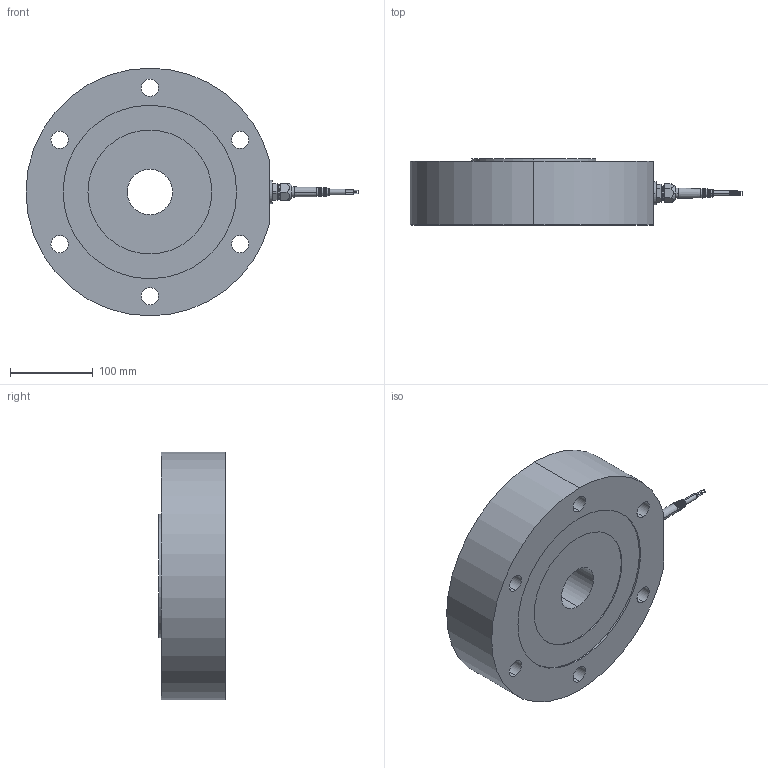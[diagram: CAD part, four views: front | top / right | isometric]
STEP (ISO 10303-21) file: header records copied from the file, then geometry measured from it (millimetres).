
FILE_DESCRIPTION (( 'STEP AP214' ), '1' );
FILE_NAME ('CLC-1 3 MN Load Cell.STEP', '2021-06-17T07:48:04', ( '' ), ( '' ), 'SwSTEP 2.0', 'SolidWorks 2021', '' );
FILE_SCHEMA (( 'AUTOMOTIVE_DESIGN' ));
Length unit declared in the file: millimetre
Products named in the file (6): PUR CLC-1 3 MN; Element CLC-1 3 MN; Standardkabel 4-Cond PVC; M26x1.5 - Pg9 - 6369829; CLC-1 3 MN Load Cell; pg 9 kabelförskruvning
Assembly tree (6 placements, depth 2):
  CLC-1 3 MN Load Cell
    Element CLC-1 3 MN
    PUR CLC-1 3 MN  x2
    M26x1.5 - Pg9 - 6369829
    pg 9 kabelförskruvning
    Standardkabel 4-Cond PVC
Bounding box: 402 x 80 x 300 mm (x, y, z)
Volume: 5061147 mm3; surface area: 352011.9 mm2
Topology: 6 solids, 9 shells, 440 faces, 1090 edges, 708 vertices
Faces by surface type: plane 216, cylinder 97, bspline 73, cone 44, torus 10
Entity records: 17247 total; most frequent: CARTESIAN_POINT 5516, ORIENTED_EDGE 2156, DIRECTION 2002, EDGE_CURVE 1078, VERTEX_POINT 700, AXIS2_PLACEMENT_3D 678, LINE 646, VECTOR 646
